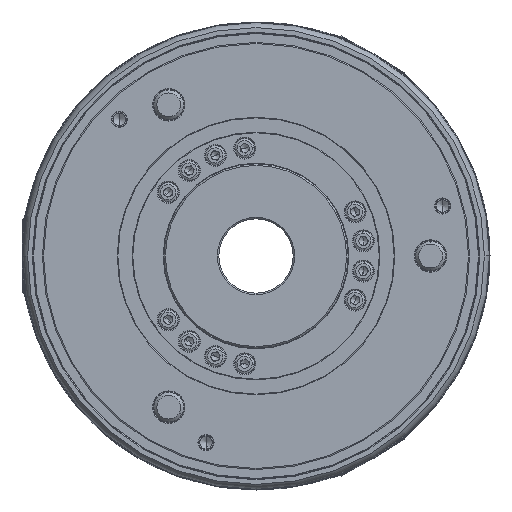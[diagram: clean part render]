
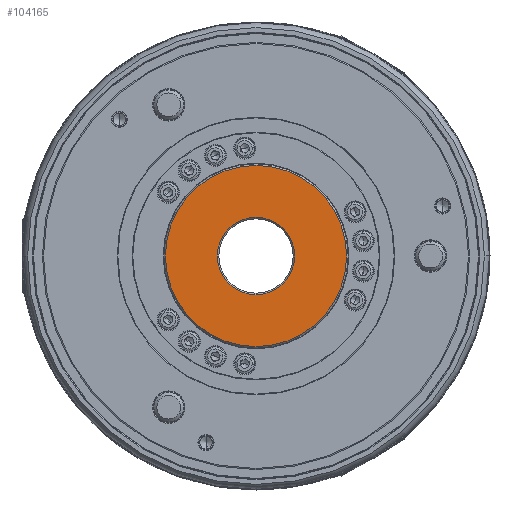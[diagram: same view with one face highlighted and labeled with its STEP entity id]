
A CAD part, left-side view. The second image highlights one B-rep face of the part: STEP entity #104165.
In plain terms, the highlighted planar face has unit normal (-1, 0, 0).
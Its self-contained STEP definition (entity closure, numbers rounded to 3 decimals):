
#192 = CIRCLE ( 'NONE', #34402, 26. ) ;
#1082 = CIRCLE ( 'NONE', #92260, 26. ) ;
#2923 = PLANE ( 'NONE',  #40465 ) ;
#3532 = DIRECTION ( 'NONE',  ( 1., 0., 0. ) ) ;
#4118 = CARTESIAN_POINT ( 'NONE',  ( 0., 0., -26. ) ) ;
#6808 = CIRCLE ( 'NONE', #8675, 61. ) ;
#7890 = DIRECTION ( 'NONE',  ( 0., 0., -1. ) ) ;
#8471 = DIRECTION ( 'NONE',  ( 1., 0., 0. ) ) ;
#8533 = ORIENTED_EDGE ( 'NONE', *, *, #49961, .T. ) ;
#8675 = AXIS2_PLACEMENT_3D ( 'NONE', #9635, #8471, #7890 ) ;
#9635 = CARTESIAN_POINT ( 'NONE',  ( 0., 0., 0. ) ) ;
#14671 = VERTEX_POINT ( 'NONE', #83319 ) ;
#16110 = VERTEX_POINT ( 'NONE', #85156 ) ;
#21352 = CARTESIAN_POINT ( 'NONE',  ( 0., 0., -61. ) ) ;
#22528 = DIRECTION ( 'NONE',  ( 0., 0., 1. ) ) ;
#29878 = VERTEX_POINT ( 'NONE', #102602 ) ;
#32620 = CARTESIAN_POINT ( 'NONE',  ( 0., 0., 0. ) ) ;
#34402 = AXIS2_PLACEMENT_3D ( 'NONE', #107213, #53064, #65481 ) ;
#38124 = ORIENTED_EDGE ( 'NONE', *, *, #111289, .F. ) ;
#39722 = CARTESIAN_POINT ( 'NONE',  ( 0., 0., 0. ) ) ;
#40311 = DIRECTION ( 'NONE',  ( 0., 0., -1. ) ) ;
#40465 = AXIS2_PLACEMENT_3D ( 'NONE', #4118, #48106, #22528 ) ;
#41607 = EDGE_CURVE ( 'NONE', #16110, #94577, #66179, .T. ) ;
#45396 = ORIENTED_EDGE ( 'NONE', *, *, #41607, .F. ) ;
#48106 = DIRECTION ( 'NONE',  ( -1., 0., 0. ) ) ;
#49961 = EDGE_CURVE ( 'NONE', #29878, #14671, #192, .T. ) ;
#53064 = DIRECTION ( 'NONE',  ( 1., 0., 0. ) ) ;
#62367 = AXIS2_PLACEMENT_3D ( 'NONE', #39722, #103377, #40311 ) ;
#65481 = DIRECTION ( 'NONE',  ( 0., 0., -1. ) ) ;
#66179 = CIRCLE ( 'NONE', #62367, 61. ) ;
#73960 = EDGE_CURVE ( 'NONE', #14671, #29878, #1082, .T. ) ;
#83319 = CARTESIAN_POINT ( 'NONE',  ( 0., 0., -26. ) ) ;
#84403 = FACE_BOUND ( 'NONE', #100590, .T. ) ;
#85156 = CARTESIAN_POINT ( 'NONE',  ( 0., 0., 61. ) ) ;
#91408 = EDGE_LOOP ( 'NONE', ( #38124, #45396 ) ) ;
#92260 = AXIS2_PLACEMENT_3D ( 'NONE', #32620, #3532, #102257 ) ;
#93927 = FACE_OUTER_BOUND ( 'NONE', #91408, .T. ) ;
#94577 = VERTEX_POINT ( 'NONE', #21352 ) ;
#100590 = EDGE_LOOP ( 'NONE', ( #8533, #113008 ) ) ;
#102257 = DIRECTION ( 'NONE',  ( 0., 0., -1. ) ) ;
#102602 = CARTESIAN_POINT ( 'NONE',  ( 0., 0., 26. ) ) ;
#103377 = DIRECTION ( 'NONE',  ( 1., 0., 0. ) ) ;
#104165 = ADVANCED_FACE ( 'NONE', ( #84403, #93927 ), #2923, .T. ) ;
#107213 = CARTESIAN_POINT ( 'NONE',  ( 0., 0., 0. ) ) ;
#111289 = EDGE_CURVE ( 'NONE', #94577, #16110, #6808, .T. ) ;
#113008 = ORIENTED_EDGE ( 'NONE', *, *, #73960, .T. ) ;
